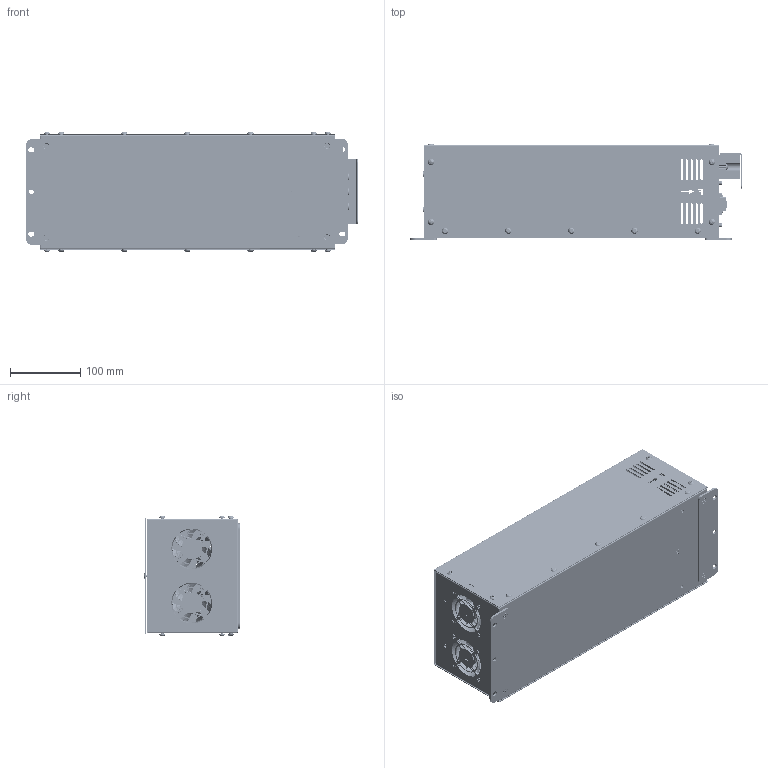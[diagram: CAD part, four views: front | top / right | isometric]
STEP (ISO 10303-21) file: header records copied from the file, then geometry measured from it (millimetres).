
FILE_DESCRIPTION(/* description */ (''),/* implementation_level */ '2;1');
FILE_NAME(/* name */ '',/* time_stamp */ '2026-06-09T16:33:13+09:00',/* author */ ('Administrator'),/* organization */ (''),/* preprocessor_version */ 'ST-DEVELOPER v20.1',/* originating_system */ 'Autodesk Inventor 2026',/* authorisation */ '');
FILE_SCHEMA (('AUTOMOTIVE_DESIGN { 1 0 10303 214 3 1 1 }'));
Products named in the file (1): VX2COM_OLED_2026.06.09_단순화_1
Bounding box: 471.76 x 137.64 x 171.09 mm (x, y, z)
Volume: 596806.5 mm3; surface area: 742629.3 mm2
Topology: 14 solids, 14 shells, 6832 faces, 18207 edges, 11815 vertices
Faces by surface type: plane 4002, cylinder 1337, bspline 1281, torus 126, cone 62, sphere 24
Full cylindrical faces by diameter (mm): 0.013 x9, 0.6 x3, 0.609 x1, 0.61 x27, 0.635 x9, 0.7 x18, 0.75 x18, 0.85 x3, 0.9 x22, 1 x5, 1.397 x9, 1.5 x4, 2.1 x4, 2.286 x9, 2.5 x4, 2.8 x12, 2.957 x12, 3 x6, 3.048 x4, 3.4 x5, 3.6 x12, 3.783 x2, 3.8 x16, 3.9 x2, 4 x30, 4.3 x8, 4.5 x7, 5 x24, 5.3 x10, 5.4 x6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
Entity records: 243064 total; most frequent: CARTESIAN_POINT 70731, ORIENTED_EDGE 36378, DIRECTION 30463, EDGE_CURVE 18189, VERTEX_POINT 11815, LINE 11629, VECTOR 11629, AXIS2_PLACEMENT_3D 9417
